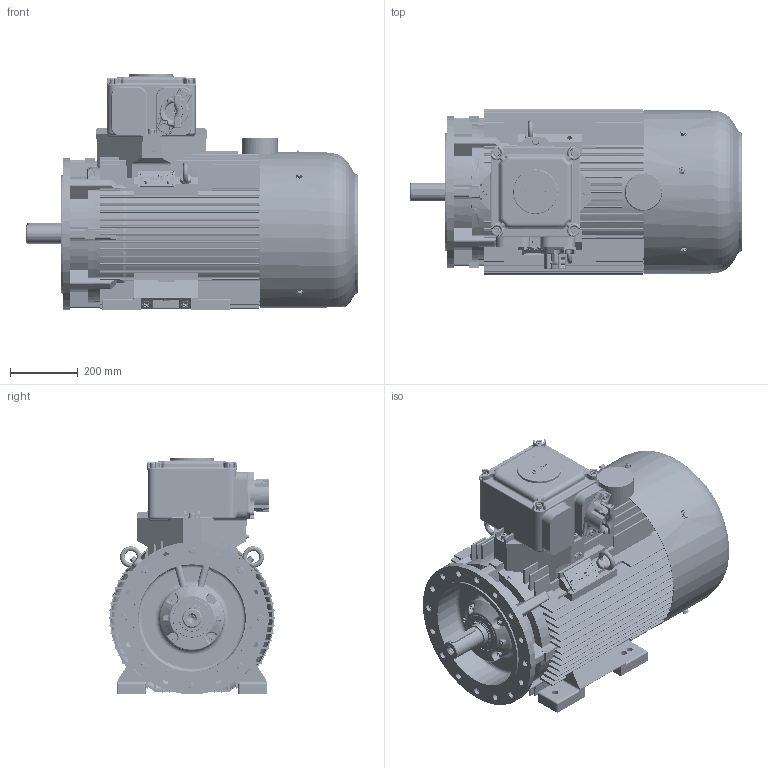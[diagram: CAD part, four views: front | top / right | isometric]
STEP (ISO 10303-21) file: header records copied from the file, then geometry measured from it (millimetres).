
FILE_DESCRIPTION(/* description */ ('Unknown'),/* implementation_level */ '2;1');
FILE_NAME(/* name */ 'Silnik EcSTLe225 M2 - wykonanie OUTSIDE !',/* time_stamp */ '2021-12-23T14:28:06+01:00',/* author */ ('Unknown'),/* organization */ ('Unknown'),/* preprocessor_version */ 'ST-DEVELOPER v16.7',/* originating_system */ 'DEX',/* authorisation */ $);
FILE_SCHEMA (('AUTOMOTIVE_DESIGN {1 0 10303 214 3 1 1}'));
Products named in the file (1): Silnik EcSTLe225 M2 - wykonanie OUTSIDE !
Bounding box: 979.13 x 489.83 x 698.8 mm (x, y, z)
Volume: 32429828.8 mm3; surface area: 6980331.4 mm2
Topology: 4 solids, 99 shells, 8813 faces, 24104 edges, 15467 vertices
Faces by surface type: plane 5503, cylinder 1892, cone 460, torus 409, bspline 399, sphere 150
Full cylindrical faces by diameter (mm): 1.2 x4, 1.6 x2, 2.013 x1, 2.459 x3, 2.5 x2, 3 x6, 3.1 x4, 3.2 x2, 3.4 x6, 4.5 x1, 4.773 x1, 4.917 x4, 5 x3, 6 x3, 6.2 x14, 6.3 x2, 6.4 x2, 6.466 x4, 6.5 x1, 6.647 x6, 8 x9, 8.16 x4, 8.8 x1, 8.917 x4, 9 x4, 9.853 x24, 10 x20, 10.106 x27, 10.5 x4, 12 x52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
Entity records: 352359 total; most frequent: CARTESIAN_POINT 75754, ORIENTED_EDGE 44748, DIRECTION 42441, EDGE_CURVE 22374, LINE 15711, VECTOR 15711, VERTEX_POINT 14860, AXIS2_PLACEMENT_3D 13365
